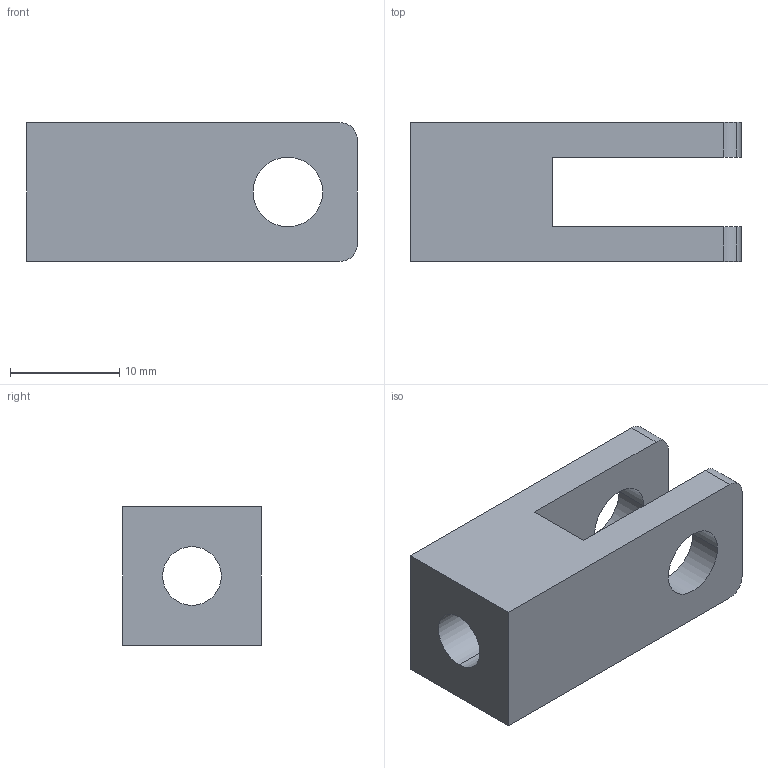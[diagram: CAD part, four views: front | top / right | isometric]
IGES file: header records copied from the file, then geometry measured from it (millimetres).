
Global section: file name: C:\Documents and Settings\Administrator\Desktop\Transfer Temp\clevis0750.igs; native system: AutoDesk Inventor R2.0 ; preprocessor: AutoDesk Inventor Iges Exporter R2.0; author: No Author specified; organization: No Organization specified; date: 20020125.204531; units: inch
Bounding box: 30.23 x 12.7 x 12.7 mm (x, y, z)
Surface area: 2237.4 mm2 (no closed solid volume)
Topology: 0 solids, 0 shells, 24 faces, 132 edges, 132 vertices
Faces by surface type: bspline 16, revolution 8
